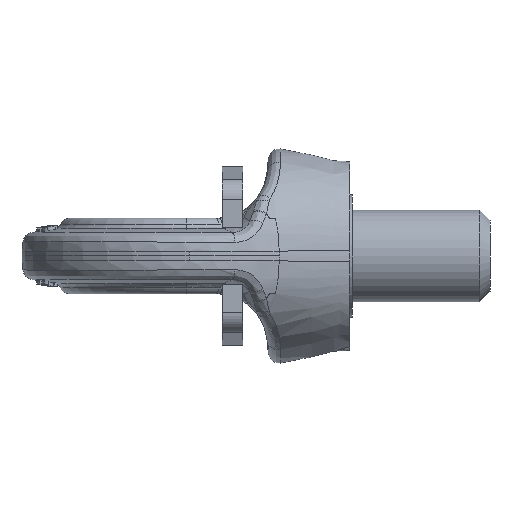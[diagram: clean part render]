
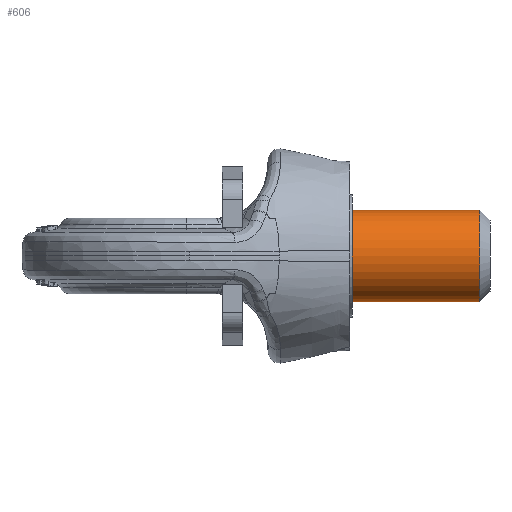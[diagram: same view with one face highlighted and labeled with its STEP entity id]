
A CAD part, left-side view. The second image highlights one B-rep face of the part: STEP entity #606.
In plain terms, the highlighted cylindrical face has radius 9 mm (diameter 18 mm), a partial arc.
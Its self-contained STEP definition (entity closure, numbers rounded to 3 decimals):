
#606=ADVANCED_FACE('',(#1536),#1537,.T.);
#1536=FACE_OUTER_BOUND('',#2817,.T.);
#1537=CYLINDRICAL_SURFACE('',#2818,9.0);
#2817=EDGE_LOOP('',(#11941,#11942,#11943,#11944));
#2818=AXIS2_PLACEMENT_3D('',#11945,#11946,#11947);
#11941=ORIENTED_EDGE('',*,*,#14804,.T.);
#11942=ORIENTED_EDGE('',*,*,#14863,.T.);
#11943=ORIENTED_EDGE('',*,*,#14806,.T.);
#11944=ORIENTED_EDGE('',*,*,#14859,.T.);
#11945=CARTESIAN_POINT('',(0.0,-56.5,0.0));
#11946=DIRECTION('',(0.0,1.0,0.0));
#11947=DIRECTION('',(0.0,0.0,-1.0));
#14804=EDGE_CURVE('',#16382,#16383,#16384,.T.);
#14806=EDGE_CURVE('',#16387,#16385,#16388,.T.);
#14859=EDGE_CURVE('',#16385,#16382,#16463,.F.);
#14863=EDGE_CURVE('',#16383,#16387,#16467,.T.);
#16382=VERTEX_POINT('',#18613);
#16383=VERTEX_POINT('',#18614);
#16384=LINE('',#18615,#18616);
#16385=VERTEX_POINT('',#18617);
#16387=VERTEX_POINT('',#18619);
#16388=LINE('',#18620,#18621);
#16463=CIRCLE('',#18722,9.0);
#16467=CIRCLE('',#18726,9.0);
#18613=CARTESIAN_POINT('',(0.,-32.5,-9.0));
#18614=CARTESIAN_POINT('',(0.,-57.5,-9.0));
#18615=CARTESIAN_POINT('',(0.,-56.5,-9.0));
#18616=VECTOR('',#27241,1.0);
#18617=CARTESIAN_POINT('',(0.0,-32.5,9.0));
#18619=CARTESIAN_POINT('',(0.0,-57.5,9.0));
#18620=CARTESIAN_POINT('',(0.,-56.5,9.0));
#18621=VECTOR('',#27245,1.0);
#18722=AXIS2_PLACEMENT_3D('',#27302,#27303,#27304);
#18726=AXIS2_PLACEMENT_3D('',#27308,#27309,#27310);
#27241=DIRECTION('',(0.0,-1.0,-0.0));
#27245=DIRECTION('',(0.0,1.0,0.0));
#27302=CARTESIAN_POINT('',(0.0,-32.5,0.0));
#27303=DIRECTION('',(0.0,1.0,0.0));
#27304=DIRECTION('',(0.0,0.0,1.0));
#27308=CARTESIAN_POINT('',(0.0,-57.5,0.0));
#27309=DIRECTION('',(0.0,1.0,0.0));
#27310=DIRECTION('',(0.0,0.0,1.0));
